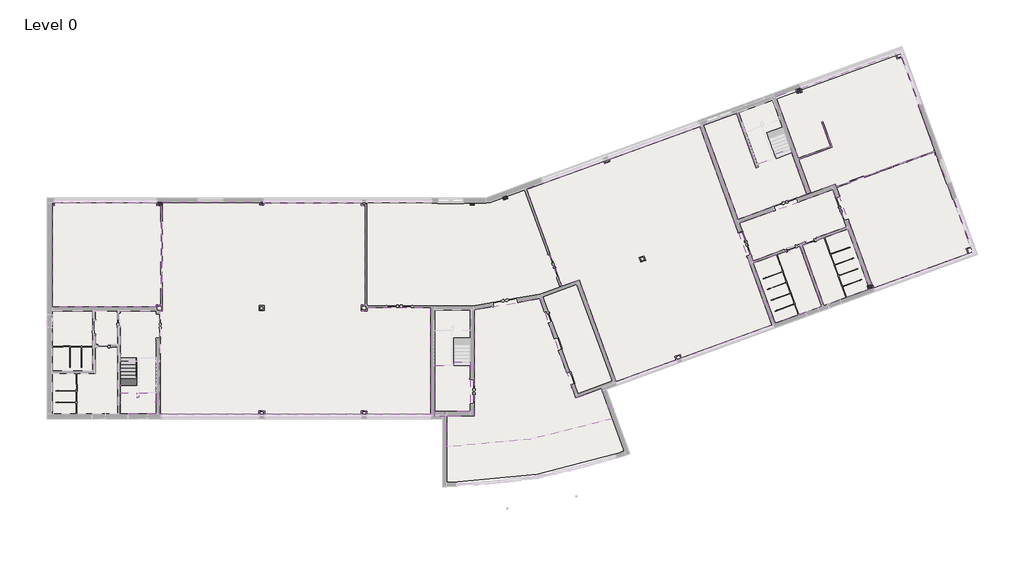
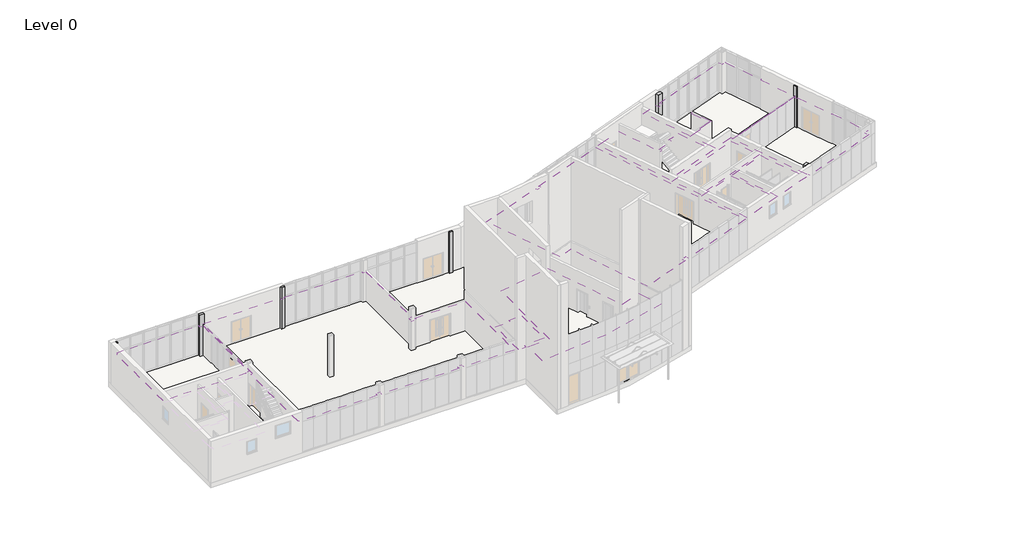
# One storey, part 10 of 14: 11 coverings, 8 columns, 4 proxies, 2 slabs, 1 stair flight.
"""IFC4 building model written with IfcOpenShell, lengths in millimetres."""

from ifc_helpers import new_model, si_unit, point, frame, frame_2d, origin, origin_with_axes, place, context, project, spatial, polyline, circle_curve, trimmed, segment, composite_curve, outline, extrude, faceted_brep, transform, mapped, element, save
from components import support_metal_circular1_support_metal_circular_016e83f0

model = new_model("IFC4")

# Units and contexts
model_context = context("Model", 3, world=origin())
ifc_project = project(units=[si_unit("LENGTHUNIT", "METRE", prefix="MILLI")], contexts=[model_context])

# Site, building, storey
site = spatial("IfcSite", under=ifc_project)
building = spatial("IfcBuilding", under=site)
storey = spatial("IfcBuildingStorey", under=building, Name="Level 0", Elevation=0.0)

# Proxies
placement = place(None, origin())
support_metal_circular1_support_metal_circular_shape = support_metal_circular1_support_metal_circular_016e83f0(model_context)
element("IfcBuildingElementProxy", 1, Name="Support - Metal - Circular1 : Support - Metal - Circular", ObjectType="Support - Metal - Circular1 : Support - Metal - Circular", at=placement, inside=storey, context=model_context, shape_type="MappedRepresentation", body=[
    mapped(support_metal_circular1_support_metal_circular_shape, transform((5322.6000024, 3439.4755703, 1669.5820057), x_axis=(0.0, 1.0, 0.0), y_axis=(-1.0, 0.0, 0.0), z_axis=(0.0, 0.0, 1.0))),
])
element("IfcBuildingElementProxy", 2, Name="Support - Metal - Circular1 : Support - Metal - Circular", ObjectType="Support - Metal - Circular1 : Support - Metal - Circular", at=placement, inside=storey, context=model_context, shape_type="MappedRepresentation", body=[
    mapped(support_metal_circular1_support_metal_circular_shape, transform((5322.6000024, 2334.2312733, 2453.300689), x_axis=(0.0, 1.0, 0.0), y_axis=(-1.0, 0.0, 0.0), z_axis=(0.0, 0.0, 1.0))),
])
element("IfcBuildingElementProxy", 3, Name="Support - Metal - Circular1 : Support - Metal - Circular", ObjectType="Support - Metal - Circular1 : Support - Metal - Circular", at=placement, inside=storey, context=model_context, shape_type="MappedRepresentation", body=[
    mapped(support_metal_circular1_support_metal_circular_shape, transform((5322.6000024, 1100.0, 2832.1192282), x_axis=(0.0, 1.0, 0.0), y_axis=(-1.0, 0.0, 0.0), z_axis=(0.0, 0.0, 1.0))),
])
element("IfcBuildingElementProxy", 4, Name="Support - Metal - Circular1 : Support - Metal - Circular", ObjectType="Support - Metal - Circular1 : Support - Metal - Circular", at=placement, inside=storey, context=model_context, shape_type="MappedRepresentation", body=[
    mapped(support_metal_circular1_support_metal_circular_shape, transform((7761.8000023, 1150.0, 2832.1192282), x_axis=(0.0, -1.0, 0.0), y_axis=(1.0, 0.0, 0.0), z_axis=(0.0, 0.0, 1.0))),
])

# Columns
element("IfcColumn", 5, ObjectType="Columns_Rectangular : 300x300mm", at=placement, inside=storey, context=model_context, shape_type="SweptSolid", body=[
    extrude(outline(polyline([(562.2000028, 15173.2000005), (433.0000024, 15173.2000005), (433.0000025, 15351.4000013), (562.2000028, 15351.4000013), (562.2000028, 15173.2000005)])), origin_with_axes(), (0.0, 0.0, 1.0), 3900.0),
])
element("IfcColumn", 6, ObjectType="Columns_Rectangular : 300x300mm", at=placement, inside=storey, context=model_context, shape_type="SweptSolid", body=[
    extrude(outline(polyline([(32891.9713576, 15685.7159924), (32610.0635714, 15583.1099494), (32541.5911387, 15771.236412), (32823.498925, 15873.842455), (32891.9713576, 15685.7159924)])), origin_with_axes(), (0.0, 0.0, 1.0), 3900.0),
])
element("IfcColumn", 7, ObjectType="Columns_Rectangular : 300x300mm", at=placement, inside=storey, context=model_context, shape_type="SweptSolid", body=[
    extrude(outline(polyline([(30512.2000025, 15213.2000005), (30212.2000025, 15213.2000005), (30212.2000025, 15351.4000004), (30512.2000025, 15351.4000004), (30512.2000025, 15213.2000005)])), origin_with_axes(), (0.0, 0.0, 1.0), 3900.0),
])
element("IfcColumn", 8, ObjectType="Columns_Rectangular : 300x300mm", at=placement, inside=storey, context=model_context, shape_type="Brep", body=[
    faceted_brep([(63263.387227, 19077.9273787, 3900.0), (63365.99327, 18796.0195924, 3900.0), (63459.9625309, 18830.2216063, 3900.0), (63357.356488, 19112.1293926, 3900.0), (63459.9625309, 18830.2216063, 0.0), (63365.99327, 18796.0195924, 0.0), (63279.6331838, 19033.2919792, 0.0), (63271.0826803, 19056.7842947, 0.0), (63263.387227, 19077.9273787, 0.0), (63357.356488, 19112.1293926, 0.0)], [[[0, 1, 2, 3]], [[4, 5, 6, 7, 8, 9]], [[8, 0, 3, 9]], [[1, 0, 8, 7, 6, 5]], [[1, 5, 4, 2]], [[3, 2, 4, 9]]]),
])
element("IfcColumn", 9, ObjectType="Columns_Rectangular : 300x300mm", at=placement, inside=storey, context=model_context, shape_type="SweptSolid", body=[
    extrude(outline(polyline([(15512.2000024, 15213.2000005), (15212.2000024, 15213.2000005), (15212.2000024, 15413.4000007), (15512.2000024, 15413.4000007), (15512.2000024, 15213.2000005)])), origin_with_axes(), (0.0, 0.0, 1.0), 3900.0),
])
element("IfcColumn", 10, ObjectType="Columns_Rectangular : 400x400mm", at=placement, inside=storey, context=model_context, shape_type="Brep", body=[
    faceted_brep([(7887.2000028, 15163.2000005, 3900.0), (8287.2000028, 15163.2000005, 3900.0), (8287.2000028, 15413.4000008, 3900.0), (7887.2000028, 15413.4000008, 3900.0), (7887.2000028, 15413.4000008, 0.0), (8287.2000028, 15413.4000008, 0.0), (8287.2000028, 15188.4000008, 0.0), (8167.2000028, 15188.4000008, 0.0), (8167.2000028, 15163.2000005, 0.0), (7887.2000028, 15163.2000005, 0.0), (8167.2000028, 15163.2000005, 2900.0), (8287.2000028, 15163.2000005, 2900.0), (8287.2000028, 15188.4000008, 2900.0), (8167.2000028, 15188.4000008, 2900.0)], [[[0, 1, 2, 3]], [[4, 5, 6, 7, 8, 9]], [[9, 0, 3, 4]], [[1, 0, 9, 8, 10, 11]], [[2, 1, 11, 12, 6, 5]], [[3, 2, 5, 4]], [[7, 13, 10, 8]], [[13, 7, 6, 12]], [[13, 12, 11, 10]]]),
])
element("IfcColumn", 11, ObjectType="Columns_Rectangular : 400x400mm", at=placement, inside=storey, context=model_context, shape_type="SweptSolid", body=[
    extrude(outline(polyline([(53911.2024396, 23282.8815641), (53535.3253912, 23146.0735068), (53428.5467025, 23439.4455429), (53804.4237508, 23576.2536002), (53911.2024396, 23282.8815641)])), origin_with_axes(), (0.0, 0.0, 1.0), 3900.0),
])
element("IfcColumn", 12, ObjectType="Columns_Rectangular : 400x400mm", at=placement, inside=storey, context=model_context, shape_type="Brep", body=[
    faceted_brep([(58904.6965317, 9563.3693005, 3900.0), (58528.8194834, 9426.5612432, 3900.0), (58614.3929232, 9191.4501495, 3900.0), (58990.2699716, 9328.2582068, 3900.0), (58614.3929232, 9191.4501495, 0.0), (58528.8194834, 9426.5612432, 0.0), (58622.7887454, 9460.7632574, 0.0), (58857.7119006, 9546.2682933, 0.0), (58904.6965317, 9563.3693005, 0.0), (58990.2699716, 9328.2582068, 0.0)], [[[0, 1, 2, 3]], [[4, 5, 6, 7, 8, 9]], [[1, 0, 8, 7, 6, 5]], [[1, 5, 4, 2]], [[8, 0, 3, 9]], [[3, 2, 4, 9]]]),
])

# Coverings
element("IfcCovering", 13, ObjectType="24\" x 24\"_Grid", at=placement, inside=storey, context=model_context, shape_type="SweptSolid", body=[
    extrude(outline(polyline([(22882.3447354, 7663.2000003), (22882.3447354, 7893.2000004), (27412.2000031, 7893.2000005), (27412.2000029, 269.9999995), (22862.3447354, 269.9999995), (22862.3447354, 538.199999), (22462.2000028, 538.199999), (22462.2000028, 269.9999995), (15562.3447355, 269.9999995), (15562.3447355, 538.199999), (15162.2000029, 538.199999), (15162.2000029, 269.9999995), (8187.2000027, 269.9999995), (8187.2000027, 313.0000001), (8087.2000022, 313.0000001), (8087.2000024, 7638.2000005), (8287.2000028, 7638.2000005), (8287.2000028, 15413.4000008), (15212.2000024, 15413.4000007), (15212.2000024, 15213.2000005), (15512.2000024, 15213.2000005), (15512.2000024, 15363.2000005), (22462.2000028, 15363.2000005), (22462.2000028, 15188.2000019), (22742.3447354, 15188.2000019), (22742.3447354, 8063.2000003), (22462.2000024, 8063.2000003), (22462.2000024, 7663.2000003), (22882.3447354, 7663.2000003)]), holes=[polyline([(15537.2000025, 7688.2000003), (15537.2000025, 8038.2000003), (15187.2000024, 8038.2000003), (15187.2000024, 7688.2000003), (15537.2000025, 7688.2000003)])]), frame((0.0, 0.0, 2800.0), z_axis=(0.0, 0.0, 1.0), x_axis=(1.0, 0.0, 0.0)), (0.0, 0.0, 1.0), 52.0),
])
element("IfcCovering", 14, ObjectType="24\" x 24\"_Grid", at=placement, inside=storey, context=model_context, shape_type="SweptSolid", body=[
    extrude(outline(polyline([(37985.6557273, 9877.5855238), (36735.8645417, 9422.6987332), (34204.8470773, 16376.6120655), (35384.1613169, 16805.8473456), (35396.8160621, 16771.0787187), (39742.8264311, 18352.8971307), (39807.1946218, 18176.0469802), (40183.0716701, 18312.8550375), (40118.7034794, 18489.705188), (46579.1582494, 20841.1184239), (51752.691745, 6626.9519648), (45292.236975, 4275.5387287), (45193.66677, 4546.3581414), (44817.7897216, 4409.5500841), (44916.3599267, 4138.7306713), (40640.8265039, 2582.5637698), (37985.6557273, 9877.5855238)]), holes=[polyline([(42724.7984316, 11256.6346278), (42605.0913814, 11585.5270451), (42276.1989642, 11465.8199949), (42395.9060144, 11136.9275777), (42724.7984316, 11256.6346278)])]), frame((0.0, 0.0, 2800.0), z_axis=(0.0, 0.0, 1.0), x_axis=(1.0, 0.0, 0.0)), (0.0, 0.0, 1.0), 52.0),
])
element("IfcCovering", 15, ObjectType="24\" x 24\"_Grid", at=placement, inside=storey, context=model_context, shape_type="SweptSolid", body=[
    extrude(outline(polyline([(28408.3766929, 146.0000008), (27712.2000028, 146.0000009), (27712.200003, 3763.2000006), (29052.2000029, 3763.2000006), (29052.2000029, 4013.2000006), (30212.2000024, 4013.2000006), (30212.2000023, 470.0000006), (28408.3766929, 470.0000006), (28408.3766929, 146.0000008)])), frame((0.0, 0.0, 2800.0), z_axis=(0.0, 0.0, 1.0), x_axis=(1.0, 0.0, 0.0)), (0.0, 0.0, 1.0), 52.0),
])
element("IfcCovering", 16, ObjectType="24\" x 24\"_Grid", at=placement, inside=storey, context=model_context, shape_type="SweptSolid", body=[
    extrude(outline(polyline([(50622.8530138, 17860.8385478), (50776.9710581, 17916.9066227), (50697.0762506, 18136.4158024), (52050.0788572, 18628.8684779), (51964.5738214, 18863.791633), (53045.2203355, 19257.1147979), (54237.3999491, 15981.6282294), (49318.7201794, 14191.3752015), (46856.9617939, 20955.0007783), (49187.8828531, 21803.3866622), (50622.8530138, 17860.8385478)])), frame((0.0, 0.0, 2800.0), z_axis=(0.0, 0.0, 1.0), x_axis=(1.0, 0.0, 0.0)), (0.0, 0.0, 1.0), 52.0),
])
element("IfcCovering", 17, ObjectType="24\" x 24\"_Grid", at=placement, inside=storey, context=model_context, shape_type="SweptSolid", body=[
    extrude(outline(polyline([(50396.1862368, 11231.0615383), (49421.3262224, 13909.4674153), (56069.6515144, 16329.2599291), (57044.5115288, 13650.8540521), (50396.1862368, 11231.0615383)])), frame((0.0, 0.0, 2800.0), z_axis=(0.0, 0.0, 1.0), x_axis=(1.0, 0.0, 0.0)), (0.0, 0.0, 1.0), 52.0),
])
element("IfcCovering", 18, ObjectType="24\" x 24\"_Grid", at=placement, inside=storey, context=model_context, shape_type="SweptSolid", body=[
    extrude(outline(polyline([(59011.8172406, 9269.0575717), (58904.6965317, 9563.3693005), (58857.7119006, 9546.2682933), (56325.9077899, 16502.3429187), (63256.1408745, 19024.7414778), (63351.0514643, 18763.9767754), (63468.5130346, 18806.7292907), (64639.3163891, 15589.9735111), (64698.5170243, 15611.5207802), (65929.7895403, 12228.6273452), (65588.6811194, 12104.4740334), (65730.6194788, 11714.5015961), (59011.8172406, 9269.0575717)])), frame((0.0, 0.0, 2800.0), z_axis=(0.0, 0.0, 1.0), x_axis=(1.0, 0.0, 0.0)), (0.0, 0.0, 1.0), 52.0),
])
element("IfcCovering", 19, ObjectType="24\" x 24\"_Grid", at=placement, inside=storey, context=model_context, shape_type="SweptSolid", body=[
    extrude(outline(polyline([(52027.7935973, 22929.6131071), (53428.5467025, 23439.4455429), (53535.3253912, 23146.0735068), (53911.2024395, 23282.8815641), (53817.0784962, 23541.4849732), (60535.8807344, 25986.9289976), (60664.8223283, 25632.6648797), (61005.9307492, 25756.8181916), (62237.203265, 22373.9247568), (62178.0026297, 22352.3774878), (63373.6024448, 19067.4939931), (56325.9077899, 16502.3429187), (56248.9532577, 16713.7737583), (54519.3077353, 16084.2342724), (53655.7108186, 18456.9473006), (56049.57777, 19328.2436156), (55378.2834324, 21172.6096503), (55289.0126334, 21140.1177367), (55927.8150575, 19385.0225009), (53623.218905, 18546.2180995), (52027.7935973, 22929.6131071)])), frame((0.0, 0.0, 2800.0), z_axis=(0.0, 0.0, 1.0), x_axis=(1.0, 0.0, 0.0)), (0.0, 0.0, 1.0), 52.0),
])
element("IfcCovering", 20, ObjectType="24\" x 24\"_Grid", at=placement, inside=storey, context=model_context, shape_type="SweptSolid", body=[
    extrude(outline(composite_curve([segment(polyline([(35172.4630866, 8542.9751377), (37756.3380613, 1443.836992), (39586.2234059, 2109.8607895), (40371.8140424, -48.5317453)]), True, "CONTINUOUS"), segment(trimmed(circle_curve(frame_2d((28027.924496, 36998.4991929)), 39049.3804108), [point((40371.8140424, -48.5317453))], [point((28564.8766926, -2047.1893375))], False, "CARTESIAN"), True, "CONTINUOUS"), segment(polyline([(28564.8766926, -2047.1893375), (28564.8766928, 170.0000006), (30512.2000023, 170.0000006), (30512.2000024, 7721.2450188), (35172.4630866, 8542.9751377)]), True, "CONTINUOUS")], self_intersect=False)), frame((0.0, 0.0, 2800.0), z_axis=(0.0, 0.0, 1.0), x_axis=(1.0, 0.0, 0.0)), (0.0, 0.0, 1.0), 52.0),
])
element("IfcCovering", 21, ObjectType="24\" x 24\"_Grid", at=placement, inside=storey, context=model_context, shape_type="SweptSolid", body=[
    extrude(outline(polyline([(7887.2000028, 15388.9000009), (7887.2000028, 15163.2000005), (8167.2000028, 15163.2000005), (8167.2000028, 8063.2000005), (7837.2000024, 8063.2000005), (7837.2000024, 7938.2000004), (433.0000013, 7938.2000004), (433.0000024, 15173.2000005), (562.2000028, 15173.2000005), (562.2000028, 15388.9000009), (7887.2000028, 15388.9000009)])), frame((0.0, 0.0, 2800.0), z_axis=(0.0, 0.0, 1.0), x_axis=(1.0, 0.0, 0.0)), (0.0, 0.0, 1.0), 52.0),
])
element("IfcCovering", 22, ObjectType="Plain", at=placement, inside=storey, context=model_context, shape_type="SweptSolid", body=[
    extrude(outline(polyline([(55295.3985864, 7983.4350033), (51966.0676312, 6771.6576357), (50405.2929092, 11059.8509413), (53734.6238645, 12271.628309), (55295.3985864, 7983.4350033)])), frame((0.0, 0.0, 2800.0), z_axis=(0.0, 0.0, 1.0), x_axis=(1.0, 0.0, 0.0)), (0.0, 0.0, 1.0), 57.0),
])
element("IfcCovering", 23, ObjectType="Plain", at=placement, inside=storey, context=model_context, shape_type="SweptSolid", body=[
    extrude(outline(polyline([(58661.3775542, 9208.5511566), (55449.5081762, 8039.5263068), (53888.7334543, 12327.7196125), (57100.6028323, 13496.7444623), (58661.3775542, 9208.5511566)])), frame((0.0, 0.0, 2800.0), z_axis=(0.0, 0.0, 1.0), x_axis=(1.0, 0.0, 0.0)), (0.0, 0.0, 1.0), 57.0),
])

# Slabs
element("IfcSlab", 24, ObjectType="8\"_Thickness", at=placement, inside=storey, context=model_context, shape_type="SolidModel", body=[
    faceted_brep([(6447.2000024, 1800.0, 1949.0), (5247.2000024, 1800.0, 1949.0), (5247.2000024, 1572.7280846, 1949.0), (5247.2000024, 300.0000001, 1949.0), (7837.2000023, 300.0000001, 1949.0), (7837.2000023, 1777.2719153, 1949.0), (7837.2000023, 1800.0, 1949.0), (6637.2000025, 1800.0, 1949.0), (6637.2000025, 1777.2719153, 1949.0), (6637.2000025, 1500.0, 1949.0), (6447.2000024, 1500.0, 1949.0), (6447.2000024, 1572.7280846, 1949.0), (6447.2000024, 1800.0, 1587.8435509), (6447.2000024, 1800.0, 1771.7272727), (6447.2000024, 1500.0, 1749.0), (6447.2000024, 1572.7280846, 1749.0), (5247.2000024, 1800.0, 1771.7272727), (5247.2000024, 1800.0, 1587.8435509), (5247.2000024, 1572.7280846, 1749.0), (5247.2000024, 300.0000001, 1749.0), (6637.2000025, 1800.0, 1765.1162782), (6637.2000025, 1777.2719153, 1749.0), (6637.2000025, 1500.0, 1749.0), (7837.2000023, 1777.2719153, 1749.0), (7837.2000023, 300.0000001, 1749.0), (7837.2000023, 1800.0, 1765.1162782)], [[[0, 1, 2, 3, 4, 5, 6, 7, 8, 9, 10, 11]], [[12, 13, 0, 11, 10, 14, 15]], [[1, 16, 17, 18, 19, 3, 2]], [[7, 20, 21, 22, 9, 8]], [[18, 15, 14, 22, 21, 23, 24, 19]], [[15, 18, 17, 12]], [[23, 21, 20, 25]], [[1, 0, 13, 12, 17, 16]], [[4, 3, 19, 24]], [[4, 24, 23, 25, 6, 5]], [[7, 6, 25, 20]], [[10, 9, 22, 14]]]),
    extrude(outline(polyline([(6447.2000024, 1800.0), (6447.2000024, 1500.0), (6637.2000025, 1500.0), (6637.2000025, 1800.0), (7837.2000023, 1800.0), (7837.2000023, 300.0000001), (5247.2000024, 300.0000001), (5247.2000024, 1800.0), (6447.2000024, 1800.0)])), frame((0.0, 0.0, 1949.0), z_axis=(0.0, 0.0, 1.0), x_axis=(1.0, 0.0, 0.0)), (0.0, 0.0, 1.0), 1.0),
])
element("IfcSlab", 25, ObjectType="Generic - 6\"", at=placement, inside=storey, context=model_context, shape_type="SweptSolid", body=[
    extrude(outline(composite_curve([segment(trimmed(circle_curve(frame_2d((28251.8766926, 34165.8732259)), 38761.3804108), [point((41238.0521583, -2355.4062989))], [point((28539.8766925, -4594.4372393))], False, "CARTESIAN"), True, "CONTINUOUS"), segment(polyline([(28539.8766925, -4594.4372393), (28539.8766928, 300.0000005), (407.9999989, 313.0000007), (408.0000013, 15363.2000005), (31601.9396293, 15363.2000005), (60886.1238516, 25974.8803698), (66023.0228145, 11861.366462), (39568.1602739, 2232.5839466), (41238.0521583, -2355.4062989)]), True, "CONTINUOUS")], self_intersect=False)), frame((0.0, 0.0, -140.0), z_axis=(0.0, 0.0, 1.0), x_axis=(1.0, 0.0, 0.0)), (0.0, 0.0, 1.0), 140.0),
])

# Stair flight
element("IfcStairFlight", 26, ObjectType="1/16\"_Tread-6\"_Depth", at=placement, inside=storey, context=model_context, shape_type="SolidModel", body=[
    faceted_brep([(6447.2000024, 4050.0, 176.2727273), (6447.2000024, 4300.0, 176.2727273), (5247.2000024, 4300.0, 176.2727273), (5247.2000024, 4050.0, 176.2727273), (6447.2000024, 4050.0, 0.0), (6447.2000024, 4300.0, 0.0), (5247.2000024, 4300.0, 0.0), (5247.2000024, 4050.0, 0.0), (6447.2000024, 3800.0, 353.5454545), (6447.2000024, 4050.0, 353.5454545), (5247.2000024, 4050.0, 353.5454545), (5247.2000024, 3800.0, 353.5454545), (6447.2000024, 3800.0, 169.6617328), (6447.2000024, 4039.2665462, 0.0), (5247.2000024, 4039.2665462, 0.0), (5247.2000024, 3800.0, 169.6617328), (6447.2000024, 3550.0, 530.8181818), (6447.2000024, 3800.0, 530.8181818), (5247.2000024, 3800.0, 530.8181818), (5247.2000024, 3550.0, 530.8181818), (6447.2000024, 3550.0, 346.93446), (5247.2000024, 3550.0, 346.93446), (6447.2000024, 3300.0, 708.0909091), (6447.2000024, 3550.0, 708.0909091), (5247.2000024, 3550.0, 708.0909091), (5247.2000024, 3300.0, 708.0909091), (6447.2000024, 3300.0, 524.2071873), (5247.2000024, 3300.0, 524.2071873), (6447.2000024, 3050.0, 885.3636364), (6447.2000024, 3300.0, 885.3636364), (5247.2000024, 3300.0, 885.3636364), (5247.2000024, 3050.0, 885.3636364), (6447.2000024, 3050.0, 701.4799146), (5247.2000024, 3050.0, 701.4799146), (6447.2000024, 2800.0, 1062.6363636), (6447.2000024, 3050.0, 1062.6363636), (5247.2000024, 3050.0, 1062.6363636), (5247.2000024, 2800.0, 1062.6363636), (6447.2000024, 2800.0, 878.7526418), (5247.2000024, 2800.0, 878.7526418), (6447.2000024, 2550.0, 1239.9090909), (6447.2000024, 2800.0, 1239.9090909), (5247.2000024, 2800.0, 1239.9090909), (5247.2000024, 2550.0, 1239.9090909), (6447.2000024, 2550.0, 1056.0253691), (5247.2000024, 2550.0, 1056.0253691), (6447.2000024, 2300.0, 1417.1818182), (6447.2000024, 2550.0, 1417.1818182), (5247.2000024, 2550.0, 1417.1818182), (5247.2000024, 2300.0, 1417.1818182), (6447.2000024, 2300.0, 1233.2980964), (5247.2000024, 2300.0, 1233.2980964), (6447.2000024, 2050.0, 1594.4545455), (6447.2000024, 2300.0, 1594.4545455), (5247.2000024, 2300.0, 1594.4545455), (5247.2000024, 2050.0, 1594.4545455), (6447.2000024, 2050.0, 1410.5708237), (5247.2000024, 2050.0, 1410.5708237), (6447.2000024, 1800.0, 1587.8435509), (5247.2000024, 1800.0, 1587.8435509), (6447.2000024, 1800.0, 1771.7272727), (6447.2000024, 2050.0, 1771.7272727), (5247.2000024, 2050.0, 1771.7272727), (5247.2000024, 1800.0, 1771.7272727)], [[[0, 1, 2, 3]], [[1, 0, 4, 5]], [[2, 1, 5, 6]], [[3, 2, 6, 7]], [[8, 9, 10, 11]], [[4, 0, 9, 8, 12, 13]], [[0, 3, 10, 9]], [[3, 7, 14, 15, 11, 10]], [[16, 17, 18, 19]], [[17, 16, 20, 12, 8]], [[8, 11, 18, 17]], [[19, 18, 11, 15, 21]], [[22, 23, 24, 25]], [[23, 22, 26, 20, 16]], [[16, 19, 24, 23]], [[25, 24, 19, 21, 27]], [[28, 29, 30, 31]], [[29, 28, 32, 26, 22]], [[22, 25, 30, 29]], [[31, 30, 25, 27, 33]], [[34, 35, 36, 37]], [[35, 34, 38, 32, 28]], [[28, 31, 36, 35]], [[37, 36, 31, 33, 39]], [[40, 41, 42, 43]], [[41, 40, 44, 38, 34]], [[34, 37, 42, 41]], [[43, 42, 37, 39, 45]], [[46, 47, 48, 49]], [[47, 46, 50, 44, 40]], [[40, 43, 48, 47]], [[49, 48, 43, 45, 51]], [[52, 53, 54, 55]], [[53, 52, 56, 50, 46]], [[46, 49, 54, 53]], [[55, 54, 49, 51, 57]], [[5, 4, 13, 14, 7, 6]], [[14, 13, 12, 20, 26, 32, 38, 44, 50, 56, 58, 59, 57, 51, 45, 39, 33, 27, 21, 15]], [[60, 61, 62, 63]], [[61, 60, 58, 56, 52]], [[52, 55, 62, 61]], [[63, 62, 55, 57, 59]], [[60, 63, 59, 58]]]),
    extrude(outline(polyline([(6447.2000024, 4050.0), (5247.2000024, 4050.0), (5247.2000024, 4300.0), (6447.2000024, 4300.0), (6447.2000024, 4050.0)])), frame((0.0, 0.0, 176.2727273), z_axis=(0.0, 0.0, 1.0), x_axis=(1.0, 0.0, 0.0)), (0.0, 0.0, 1.0), 1.0),
    extrude(outline(polyline([(6447.2000024, 3800.0), (5247.2000024, 3800.0), (5247.2000024, 4050.0), (6447.2000024, 4050.0), (6447.2000024, 3800.0)])), frame((0.0, 0.0, 353.5454545), z_axis=(0.0, 0.0, 1.0), x_axis=(1.0, 0.0, 0.0)), (0.0, 0.0, 1.0), 1.0),
    extrude(outline(polyline([(6447.2000024, 3550.0), (5247.2000024, 3550.0), (5247.2000024, 3800.0), (6447.2000024, 3800.0), (6447.2000024, 3550.0)])), frame((0.0, 0.0, 530.8181818), z_axis=(0.0, 0.0, 1.0), x_axis=(1.0, 0.0, 0.0)), (0.0, 0.0, 1.0), 1.0),
    extrude(outline(polyline([(6447.2000024, 3300.0), (5247.2000024, 3300.0), (5247.2000024, 3550.0), (6447.2000024, 3550.0), (6447.2000024, 3300.0)])), frame((0.0, 0.0, 708.0909091), z_axis=(0.0, 0.0, 1.0), x_axis=(1.0, 0.0, 0.0)), (0.0, 0.0, 1.0), 1.0),
    extrude(outline(polyline([(6447.2000024, 3050.0), (5247.2000024, 3050.0), (5247.2000024, 3300.0), (6447.2000024, 3300.0), (6447.2000024, 3050.0)])), frame((0.0, 0.0, 885.3636364), z_axis=(0.0, 0.0, 1.0), x_axis=(1.0, 0.0, 0.0)), (0.0, 0.0, 1.0), 1.0),
    extrude(outline(polyline([(6447.2000024, 2800.0), (5247.2000024, 2800.0), (5247.2000024, 3050.0), (6447.2000024, 3050.0), (6447.2000024, 2800.0)])), frame((0.0, 0.0, 1062.6363636), z_axis=(0.0, 0.0, 1.0), x_axis=(1.0, 0.0, 0.0)), (0.0, 0.0, 1.0), 1.0),
    extrude(outline(polyline([(6447.2000024, 2550.0), (5247.2000024, 2550.0), (5247.2000024, 2800.0), (6447.2000024, 2800.0), (6447.2000024, 2550.0)])), frame((0.0, 0.0, 1239.9090909), z_axis=(0.0, 0.0, 1.0), x_axis=(1.0, 0.0, 0.0)), (0.0, 0.0, 1.0), 1.0),
    extrude(outline(polyline([(6447.2000024, 2300.0), (5247.2000024, 2300.0), (5247.2000024, 2550.0), (6447.2000024, 2550.0), (6447.2000024, 2300.0)])), frame((0.0, 0.0, 1417.1818182), z_axis=(0.0, 0.0, 1.0), x_axis=(1.0, 0.0, 0.0)), (0.0, 0.0, 1.0), 1.0),
    extrude(outline(polyline([(6447.2000024, 2050.0), (5247.2000024, 2050.0), (5247.2000024, 2300.0), (6447.2000024, 2300.0), (6447.2000024, 2050.0)])), frame((0.0, 0.0, 1594.4545455), z_axis=(0.0, 0.0, 1.0), x_axis=(1.0, 0.0, 0.0)), (0.0, 0.0, 1.0), 1.0),
    extrude(outline(polyline([(6447.2000024, 1800.0), (5247.2000024, 1800.0), (5247.2000024, 2050.0), (6447.2000024, 2050.0), (6447.2000024, 1800.0)])), frame((0.0, 0.0, 1771.7272727), z_axis=(0.0, 0.0, 1.0), x_axis=(1.0, 0.0, 0.0)), (0.0, 0.0, 1.0), 1.0),
])

save(model, "model.ifc")
